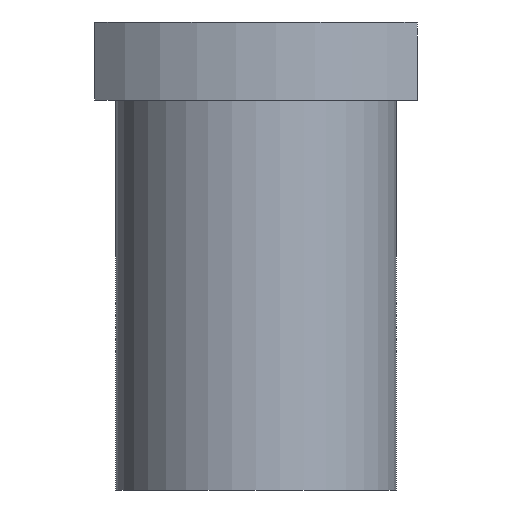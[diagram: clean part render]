
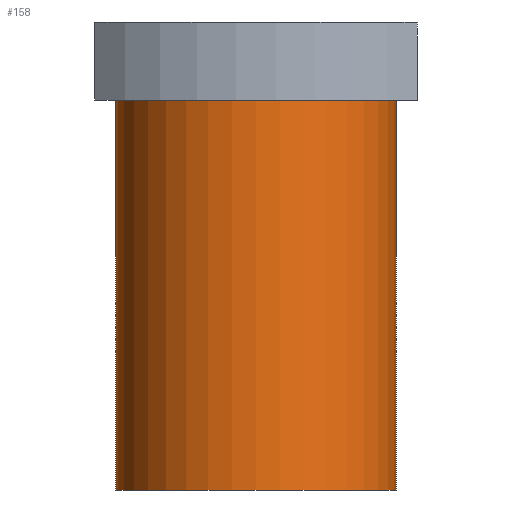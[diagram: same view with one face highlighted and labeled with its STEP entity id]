
A CAD part, front view. The second image highlights one B-rep face of the part: STEP entity #158.
In plain terms, the highlighted cylindrical face has radius 27 mm (diameter 54 mm), a partial arc.
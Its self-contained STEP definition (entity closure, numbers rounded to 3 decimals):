
#158=ADVANCED_FACE('',(#328),#329,.T.);
#328=FACE_OUTER_BOUND('',#491,.T.);
#329=CYLINDRICAL_SURFACE('',#492,27.0);
#491=EDGE_LOOP('',(#875,#876,#877,#878));
#492=AXIS2_PLACEMENT_3D('',#879,#880,#881);
#875=ORIENTED_EDGE('',*,*,#891,.T.);
#876=ORIENTED_EDGE('',*,*,#1038,.F.);
#877=ORIENTED_EDGE('',*,*,#893,.T.);
#878=ORIENTED_EDGE('',*,*,#1035,.T.);
#879=CARTESIAN_POINT('',(0.,0.0,-45.0));
#880=DIRECTION('',(0.,0.0,-1.0));
#881=DIRECTION('',(-1.0,0.0,0.));
#891=EDGE_CURVE('',#1041,#1042,#1043,.T.);
#893=EDGE_CURVE('',#1046,#1044,#1047,.T.);
#1035=EDGE_CURVE('',#1044,#1041,#1251,.T.);
#1038=EDGE_CURVE('',#1046,#1042,#1254,.T.);
#1041=VERTEX_POINT('',#1257);
#1042=VERTEX_POINT('',#1258);
#1043=LINE('',#1259,#1260);
#1044=VERTEX_POINT('',#1261);
#1046=VERTEX_POINT('',#1263);
#1047=LINE('',#1264,#1265);
#1251=CIRCLE('',#1641,27.0);
#1254=CIRCLE('',#1644,27.0);
#1257=CARTESIAN_POINT('',(-27.0,0.,-15.0));
#1258=CARTESIAN_POINT('',(-27.0,0.0,-90.0));
#1259=CARTESIAN_POINT('',(-27.0,0.,-45.0));
#1260=VECTOR('',#1646,1.0);
#1261=CARTESIAN_POINT('',(27.0,0.,-15.0));
#1263=CARTESIAN_POINT('',(27.0,0.,-90.0));
#1264=CARTESIAN_POINT('',(27.0,0.,-45.0));
#1265=VECTOR('',#1650,1.0);
#1641=AXIS2_PLACEMENT_3D('',#1856,#1857,#1858);
#1644=AXIS2_PLACEMENT_3D('',#1859,#1860,#1861);
#1646=DIRECTION('',(0.,0.0,-1.0));
#1650=DIRECTION('',(0.,-0.0,1.0));
#1856=CARTESIAN_POINT('',(0.,0.0,-15.0));
#1857=DIRECTION('',(0.,0.0,-1.0));
#1858=DIRECTION('',(-1.0,0.0,0.));
#1859=CARTESIAN_POINT('',(0.,0.0,-90.0));
#1860=DIRECTION('',(0.,0.0,-1.0));
#1861=DIRECTION('',(-1.0,0.0,0.));
